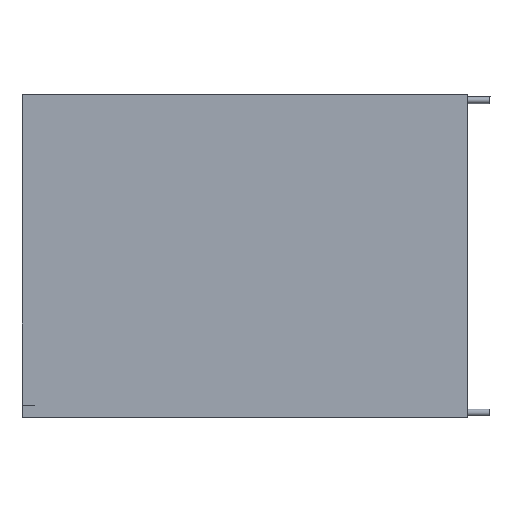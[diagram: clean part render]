
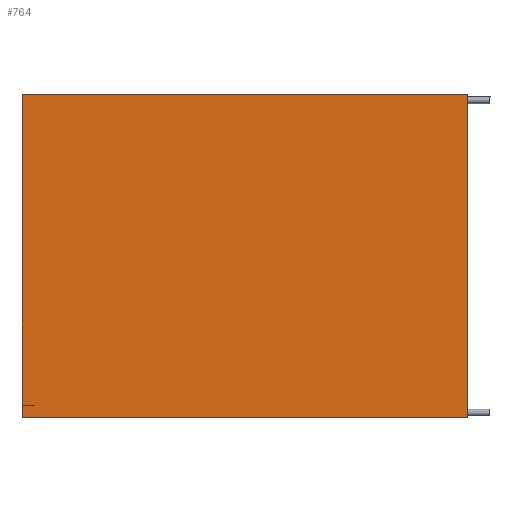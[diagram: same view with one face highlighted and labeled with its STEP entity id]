
A CAD part, front view. The second image highlights one B-rep face of the part: STEP entity #764.
In plain terms, the highlighted planar face has unit normal (0, -1, 0).
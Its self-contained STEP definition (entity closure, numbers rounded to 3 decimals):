
#18=FACE_BOUND('',#140,.T.);
#55=PLANE('',#821);
#95=FACE_OUTER_BOUND('',#139,.T.);
#139=EDGE_LOOP('',(#693,#694,#695,#696,#697,#698,#699));
#140=EDGE_LOOP('',(#700,#701,#702,#703));
#166=LINE('',#1066,#265);
#170=LINE('',#1074,#269);
#212=LINE('',#1160,#311);
#217=LINE('',#1168,#316);
#219=LINE('',#1174,#318);
#224=LINE('',#1184,#323);
#228=LINE('',#1191,#327);
#240=LINE('',#1214,#339);
#241=LINE('',#1218,#340);
#242=LINE('',#1219,#341);
#243=LINE('',#1220,#342);
#265=VECTOR('',#871,10.);
#269=VECTOR('',#877,10.);
#311=VECTOR('',#949,10.);
#316=VECTOR('',#956,10.);
#318=VECTOR('',#960,10.);
#323=VECTOR('',#967,10.);
#327=VECTOR('',#973,10.);
#339=VECTOR('',#997,10.);
#340=VECTOR('',#1000,10.);
#341=VECTOR('',#1001,10.);
#342=VECTOR('',#1002,10.);
#364=VERTEX_POINT('',#1063);
#365=VERTEX_POINT('',#1065);
#368=VERTEX_POINT('',#1073);
#397=VERTEX_POINT('',#1159);
#401=VERTEX_POINT('',#1171);
#402=VERTEX_POINT('',#1173);
#406=VERTEX_POINT('',#1183);
#408=VERTEX_POINT('',#1189);
#413=VERTEX_POINT('',#1212);
#414=VERTEX_POINT('',#1216);
#415=VERTEX_POINT('',#1217);
#438=EDGE_CURVE('',#365,#364,#166,.T.);
#442=EDGE_CURVE('',#368,#365,#170,.T.);
#484=EDGE_CURVE('',#397,#368,#212,.T.);
#489=EDGE_CURVE('',#364,#397,#217,.T.);
#491=EDGE_CURVE('',#401,#402,#219,.T.);
#496=EDGE_CURVE('',#402,#406,#224,.T.);
#500=EDGE_CURVE('',#401,#408,#228,.T.);
#512=EDGE_CURVE('',#406,#413,#240,.T.);
#513=EDGE_CURVE('',#414,#415,#241,.T.);
#514=EDGE_CURVE('',#413,#414,#242,.T.);
#515=EDGE_CURVE('',#415,#408,#243,.T.);
#693=ORIENTED_EDGE('',*,*,#513,.F.);
#694=ORIENTED_EDGE('',*,*,#514,.F.);
#695=ORIENTED_EDGE('',*,*,#512,.F.);
#696=ORIENTED_EDGE('',*,*,#496,.F.);
#697=ORIENTED_EDGE('',*,*,#491,.F.);
#698=ORIENTED_EDGE('',*,*,#500,.T.);
#699=ORIENTED_EDGE('',*,*,#515,.F.);
#700=ORIENTED_EDGE('',*,*,#489,.T.);
#701=ORIENTED_EDGE('',*,*,#484,.T.);
#702=ORIENTED_EDGE('',*,*,#442,.T.);
#703=ORIENTED_EDGE('',*,*,#438,.T.);
#764=ADVANCED_FACE('',(#95,#18),#55,.T.);
#821=AXIS2_PLACEMENT_3D('',#1215,#998,#999);
#871=DIRECTION('',(-1.,0.,0.));
#877=DIRECTION('',(0.,0.,-1.));
#949=DIRECTION('',(1.,0.,0.));
#956=DIRECTION('',(0.,0.,1.));
#960=DIRECTION('',(-1.,0.,0.));
#967=DIRECTION('',(0.,0.,1.));
#973=DIRECTION('',(0.,0.,-1.));
#997=DIRECTION('',(1.,0.,0.));
#998=DIRECTION('center_axis',(0.,-1.,0.));
#999=DIRECTION('ref_axis',(0.,0.,-1.));
#1000=DIRECTION('',(0.,0.,-1.));
#1001=DIRECTION('',(0.,0.,-1.));
#1002=DIRECTION('',(-1.,0.,0.));
#1063=CARTESIAN_POINT('',(-10.581,-7.,-146.119));
#1065=CARTESIAN_POINT('',(-5.582,-7.,-146.119));
#1066=CARTESIAN_POINT('',(-5.582,-7.,-146.119));
#1073=CARTESIAN_POINT('',(-5.582,-7.,-146.098));
#1074=CARTESIAN_POINT('',(-5.582,-7.,-146.098));
#1159=CARTESIAN_POINT('',(-10.581,-7.,-146.098));
#1160=CARTESIAN_POINT('',(-10.581,-7.,-146.098));
#1168=CARTESIAN_POINT('',(-10.581,-7.,-146.119));
#1171=CARTESIAN_POINT('',(-11.081,-7.,-146.119));
#1173=CARTESIAN_POINT('',(-11.082,-7.,-146.119));
#1174=CARTESIAN_POINT('',(-10.582,-7.,-146.119));
#1183=CARTESIAN_POINT('',(-11.082,-7.,-9.029));
#1184=CARTESIAN_POINT('',(-11.082,-7.,-151.098));
#1189=CARTESIAN_POINT('',(-11.081,-7.,-151.598));
#1191=CARTESIAN_POINT('',(-11.081,-7.,-151.098));
#1212=CARTESIAN_POINT('',(185.272,-7.,-9.029));
#1214=CARTESIAN_POINT('',(381.127,-7.,-9.029));
#1215=CARTESIAN_POINT('Origin',(185.272,-7.,-80.064));
#1216=CARTESIAN_POINT('',(185.275,-7.,-91.68));
#1217=CARTESIAN_POINT('',(185.273,-7.,-151.598));
#1218=CARTESIAN_POINT('',(185.275,-7.,-85.872));
#1219=CARTESIAN_POINT('',(185.273,-7.,-44.546));
#1220=CARTESIAN_POINT('',(-10.581,-7.,-151.598));
